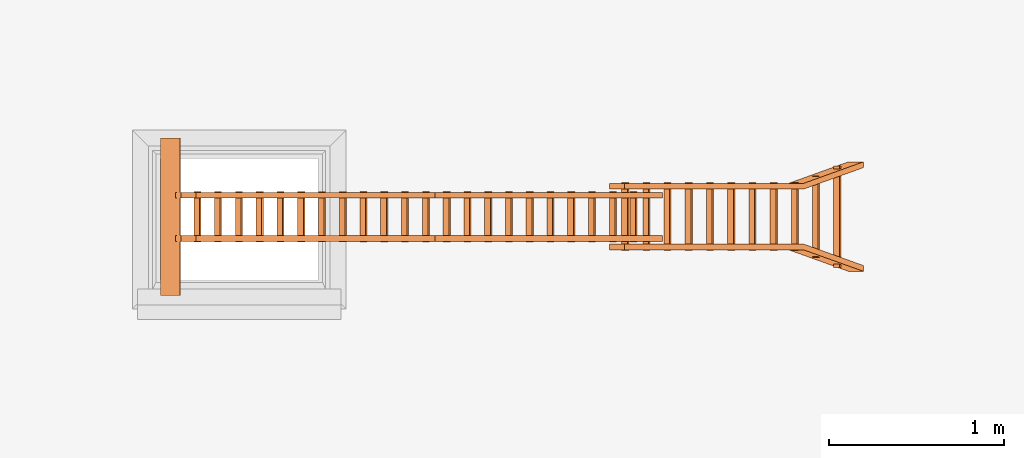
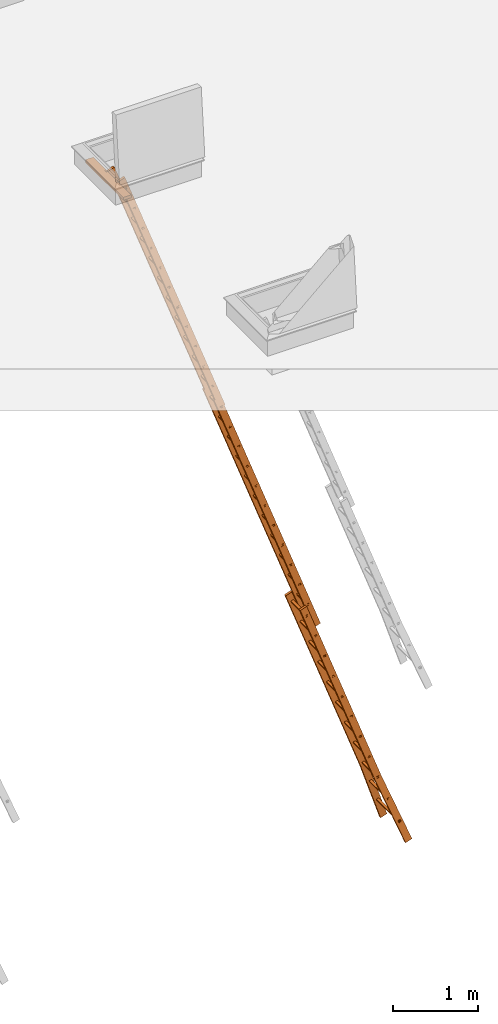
# One storey, part 13 of 28: 1 proxy, 2 openings.
"""IFC2X3 building model written with IfcOpenShell, lengths in millimetres."""

from ifc_helpers import new_model, entity, si_unit, converted_unit, derived_unit, direction, frame, frame_2d, origin, origin_2d_with_axis, place, context, subcontext, project, spatial, polyline, circle_curve, parameter, trimmed, segment, composite_curve, rectangle, outline, extrude, source, transform, mapped, type_object, type_shapes, element, save


model = new_model("IFC2X3")

# Units and contexts
model_context = context("Model", 3, precision=0.01, world=origin(), true_north=direction((6.12303176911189e-17, 1.0)))
body_context = subcontext(model_context, "Body", "Model", "MODEL_VIEW")
ifc_project = project(units=[si_unit("LENGTHUNIT", "METRE", prefix="MILLI"), si_unit("AREAUNIT", "SQUARE_METRE"), si_unit("VOLUMEUNIT", "CUBIC_METRE"), converted_unit("PLANEANGLEUNIT", "DEGREE", entity("IfcRatioMeasure", 0.0174532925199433), si_unit("PLANEANGLEUNIT", "RADIAN"), dimensions=[0, 0, 0, 0, 0, 0, 0]), si_unit("MASSUNIT", "GRAM", prefix="KILO"), derived_unit("MASSDENSITYUNIT", [(si_unit("MASSUNIT", "GRAM", prefix="KILO"), 1), (si_unit("LENGTHUNIT", "METRE"), -3)]), si_unit("TIMEUNIT", "SECOND"), si_unit("FREQUENCYUNIT", "HERTZ"), si_unit("THERMODYNAMICTEMPERATUREUNIT", "DEGREE_CELSIUS"), derived_unit("THERMALTRANSMITTANCEUNIT", [(si_unit("MASSUNIT", "GRAM", prefix="KILO"), 1), (si_unit("THERMODYNAMICTEMPERATUREUNIT", "KELVIN"), -1), (si_unit("TIMEUNIT", "SECOND"), -3)]), derived_unit("VOLUMETRICFLOWRATEUNIT", [(si_unit("LENGTHUNIT", "METRE"), 3), (si_unit("TIMEUNIT", "SECOND"), -1)]), si_unit("ELECTRICCURRENTUNIT", "AMPERE"), si_unit("ELECTRICVOLTAGEUNIT", "VOLT"), si_unit("POWERUNIT", "WATT"), si_unit("FORCEUNIT", "NEWTON", prefix="KILO"), si_unit("ILLUMINANCEUNIT", "LUX"), si_unit("LUMINOUSFLUXUNIT", "LUMEN"), si_unit("LUMINOUSINTENSITYUNIT", "CANDELA"), derived_unit("USERDEFINED", [(si_unit("MASSUNIT", "GRAM", prefix="KILO"), -1), (si_unit("LENGTHUNIT", "METRE"), -2), (si_unit("TIMEUNIT", "SECOND"), 3), (si_unit("LUMINOUSFLUXUNIT", "LUMEN"), 1)]), derived_unit("LINEARVELOCITYUNIT", [(si_unit("LENGTHUNIT", "METRE"), 1), (si_unit("TIMEUNIT", "SECOND"), -1)]), si_unit("PRESSUREUNIT", "PASCAL"), derived_unit("USERDEFINED", [(si_unit("LENGTHUNIT", "METRE"), -2), (si_unit("MASSUNIT", "GRAM", prefix="KILO"), 1), (si_unit("TIMEUNIT", "SECOND"), -2)])], contexts=[model_context])

# Site, building, storey
site_placement = place(None, origin())
site = spatial("IfcSite", under=ifc_project, at=site_placement, Name="Default", CompositionType="ELEMENT")
building_placement = place(site_placement, origin())
building = spatial("IfcBuilding", under=site, at=building_placement, CompositionType="ELEMENT")
storey_placement = place(building_placement, frame((0.0, 0.0, 4000.0)))
storey = spatial("IfcBuildingStorey", under=building, at=storey_placement, Name="Level 2", CompositionType="ELEMENT", Elevation=4000.0)

# Proxy, openings
building_element_proxy_type = type_object("IfcBuildingElementProxyType", Name="9_Topaccess_Trap_3delige1", PredefinedType="NOTDEFINED")
shared_shape = source(origin(), body_context, "Body", "SweptSolid", [
    extrude(outline(composite_curve([segment(polyline([(-20.0, -72.6666666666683), (20.0, -72.6666666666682)]), True, "CONTINUOUS"), segment(polyline([(20.0, -72.6666666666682), (20.0, 31.8333333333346)]), True, "CONTINUOUS"), segment(trimmed(circle_curve(frame_2d((11.0, 31.8333333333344), x_axis=(0.939692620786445, -0.342020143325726)), 8.99999999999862), [parameter(20.0000000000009)], [parameter(109.999999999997)], True, "PARAMETER"), True, "CONTINUOUS"), segment(polyline([(11.0, 40.8333333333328), (-11.0, 40.833333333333)]), True, "CONTINUOUS"), segment(trimmed(circle_curve(frame_2d((-11.0, 31.8333333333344), x_axis=(0.939692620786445, -0.342020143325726)), 8.99999999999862), [parameter(109.999999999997)], [parameter(199.999999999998)], True, "PARAMETER"), True, "CONTINUOUS"), segment(polyline([(-20.0, 31.8333333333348), (-20.0, -72.6666666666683)]), True, "CONTINUOUS")], self_intersect=False)), frame((-484.291584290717, 5437.00468660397, 85.555153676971), z_axis=(1.0, 0.0, 0.0), x_axis=(0.0, 0.939692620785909, 0.342020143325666)), (0.0, 0.0, 1.0), 900.0),
    extrude(outline(composite_curve([segment(polyline([(34.5620685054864, -17.3803405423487), (-85.4379314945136, -17.3803405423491)]), True, "CONTINUOUS"), segment(polyline([(-85.4379314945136, -17.3803405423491), (-85.4379314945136, -20.3803405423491)]), True, "CONTINUOUS"), segment(polyline([(-85.4379314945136, -20.3803405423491), (34.8237042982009, -20.3803405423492)]), True, "CONTINUOUS"), segment(trimmed(circle_curve(frame_2d((31.2529900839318, 0.719659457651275), x_axis=(1.0, 0.0)), 21.4), [parameter(279.605058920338)], [parameter(66.7401617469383)], True, "PARAMETER"), True, "CONTINUOUS"), segment(polyline([(39.7038846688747, 20.3803405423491), (11.3620685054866, 20.380340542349)]), True, "CONTINUOUS"), segment(polyline([(11.3620685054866, 20.380340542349), (11.3620685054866, 17.380340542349)]), True, "CONTINUOUS"), segment(polyline([(11.3620685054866, 17.380340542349), (39.0620685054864, 17.3803405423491)]), True, "CONTINUOUS"), segment(trimmed(circle_curve(frame_2d((31.2529900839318, 0.719659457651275), x_axis=(1.0, 0.0)), 18.4), [parameter(280.36051137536)], [parameter(64.8869014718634)], True, "PARAMETER"), False, "CONTINUOUS")], self_intersect=False)), frame((72.0, 5400.1320556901, 113.619659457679), z_axis=(-1.0, 0.0, 0.0), x_axis=(0.0, 1.0, 0.0)), (0.0, 0.0, -1.0), 33.0),
    extrude(outline(composite_curve([segment(polyline([(-85.4379314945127, -17.3803405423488), (-85.4379314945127, -20.3803405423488)]), True, "CONTINUOUS"), segment(polyline([(-85.4379314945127, -20.3803405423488), (34.8237042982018, -20.3803405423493)]), True, "CONTINUOUS"), segment(trimmed(circle_curve(frame_2d((31.2529900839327, 0.719659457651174), x_axis=(1.0, 0.0)), 21.4), [parameter(279.605058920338)], [parameter(66.7401617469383)], True, "PARAMETER"), True, "CONTINUOUS"), segment(polyline([(39.7038846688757, 20.380340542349), (11.3620685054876, 20.380340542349)]), True, "CONTINUOUS"), segment(polyline([(11.3620685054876, 20.380340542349), (11.3620685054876, 17.380340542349)]), True, "CONTINUOUS"), segment(polyline([(11.3620685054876, 17.380340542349), (39.0620685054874, 17.380340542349)]), True, "CONTINUOUS"), segment(trimmed(circle_curve(frame_2d((31.2529900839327, 0.719659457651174), x_axis=(1.0, 0.0)), 18.4), [parameter(280.36051137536)], [parameter(64.8869014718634)], True, "PARAMETER"), False, "CONTINUOUS"), segment(polyline([(34.5620685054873, -17.3803405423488), (-85.4379314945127, -17.3803405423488)]), True, "CONTINUOUS")], self_intersect=False)), frame((-175.0, 5400.13205569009, 113.619659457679), z_axis=(-1.0, 0.0, 0.0), x_axis=(0.0, 1.0, 0.0)), (0.0, 0.0, -1.0), 33.0000000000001),
    extrude(outline(polyline([(-11.5216143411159, -16.5), (13.8405381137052, -16.5), (13.8405381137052, 16.4999999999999), (-16.1594618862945, 16.5), (-11.5216143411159, -16.5)]), holes=[polyline([(8.84053811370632, -11.5), (-7.1751806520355, -11.5), (-10.4076198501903, 11.5000000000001), (8.84053811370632, 11.5), (8.84053811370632, -11.5)])]), frame((-178.583168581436, 1440.72573419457, 171.084388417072), z_axis=(1.0, 0.0, 0.0), x_axis=(0.0, -1.0, 0.0)), (0.0, 0.0, 1.0), 288.583168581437),
    extrude(outline(polyline([(-11.5216143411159, -16.5), (13.8405381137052, -16.5), (13.8405381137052, 16.4999999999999), (-16.1594618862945, 16.5), (-11.5216143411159, -16.5)]), holes=[polyline([(8.84053811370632, -11.5), (-7.1751806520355, -11.5), (-10.4076198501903, 11.5000000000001), (8.84053811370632, 11.5), (8.84053811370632, -11.5)])]), frame((-178.583168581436, 1093.22573419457, 171.084388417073), z_axis=(1.0, 0.0, 0.0), x_axis=(0.0, -1.0, 0.0)), (0.0, 0.0, 1.0), 288.583168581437),
    extrude(outline(polyline([(-11.5216143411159, -16.5), (13.8405381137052, -16.5), (13.8405381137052, 16.4999999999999), (-16.1594618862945, 16.5), (-11.5216143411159, -16.5)]), holes=[polyline([(8.84053811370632, -11.5), (-7.1751806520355, -11.5), (-10.4076198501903, 11.5000000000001), (8.84053811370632, 11.5), (8.84053811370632, -11.5)])]), frame((-178.583168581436, 745.725734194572, 171.084388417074), z_axis=(1.0, 0.0, 0.0), x_axis=(0.0, -1.0, 0.0)), (0.0, 0.0, 1.0), 288.583168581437),
    extrude(outline(polyline([(-11.5216143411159, -16.5), (13.8405381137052, -16.5), (13.8405381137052, 16.4999999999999), (-16.1594618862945, 16.5), (-11.5216143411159, -16.5)]), holes=[polyline([(8.84053811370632, -11.5), (-7.1751806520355, -11.5), (-10.4076198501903, 11.5000000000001), (8.84053811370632, 11.5), (8.84053811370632, -11.5)])]), frame((-178.583168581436, 398.225734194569, 171.084388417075), z_axis=(1.0, 0.0, 0.0), x_axis=(0.0, -1.0, 0.0)), (0.0, 0.0, 1.0), 288.583168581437),
    extrude(outline(polyline([(-11.5216143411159, -16.5), (13.8405381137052, -16.5), (13.8405381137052, 16.4999999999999), (-16.1594618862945, 16.5), (-11.5216143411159, -16.5)]), holes=[polyline([(8.84053811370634, -11.5), (-7.17518065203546, -11.5), (-10.4076198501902, 11.5000000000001), (8.84053811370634, 11.5), (8.84053811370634, -11.5)])]), frame((-178.583168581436, 50.7257341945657, 171.084388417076), z_axis=(1.0, 0.0, 0.0), x_axis=(0.0, -1.0, 0.0)), (0.0, 0.0, 1.0), 288.583168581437),
    extrude(outline(polyline([(-11.5216143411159, -16.5), (13.8405381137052, -16.5), (13.8405381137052, 16.4999999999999), (-16.1594618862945, 16.5), (-11.5216143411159, -16.5)]), holes=[polyline([(8.84053811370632, -11.5), (-7.17518065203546, -11.5), (-10.4076198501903, 11.5000000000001), (8.84053811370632, 11.5), (8.84053811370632, -11.5)])]), frame((-178.583168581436, -296.774265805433, 171.084388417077), z_axis=(1.0, 0.0, 0.0), x_axis=(0.0, -1.0, 0.0)), (0.0, 0.0, 1.0), 288.583168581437),
    extrude(outline(polyline([(-11.5216143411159, -16.5), (13.8405381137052, -16.5), (13.8405381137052, 16.4999999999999), (-16.1594618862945, 16.5), (-11.5216143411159, -16.5)]), holes=[polyline([(8.84053811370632, -11.5), (-7.1751806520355, -11.5), (-10.4076198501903, 11.5000000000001), (8.84053811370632, 11.5), (8.84053811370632, -11.5)])]), frame((-178.583168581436, -644.274265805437, 171.084388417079), z_axis=(1.0, 0.0, 0.0), x_axis=(0.0, -1.0, 0.0)), (0.0, 0.0, 1.0), 288.583168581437),
    extrude(outline(polyline([(-11.5216143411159, -16.5), (13.8405381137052, -16.5), (13.8405381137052, 16.4999999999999), (-16.1594618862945, 16.5), (-11.5216143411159, -16.5)]), holes=[polyline([(8.84053811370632, -11.5), (-7.1751806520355, -11.5), (-10.4076198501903, 11.5000000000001), (8.84053811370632, 11.5), (8.84053811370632, -11.5)])]), frame((-178.583168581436, -991.774265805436, 171.08438841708), z_axis=(1.0, 0.0, 0.0), x_axis=(0.0, -1.0, 0.0)), (0.0, 0.0, 1.0), 288.583168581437),
    extrude(outline(polyline([(-11.5216143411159, -16.5), (13.8405381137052, -16.5), (13.8405381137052, 16.4999999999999), (-16.1594618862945, 16.5), (-11.5216143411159, -16.5)]), holes=[polyline([(8.84053811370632, -11.5), (-7.1751806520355, -11.5), (-10.4076198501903, 11.5000000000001), (8.84053811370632, 11.5), (8.84053811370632, -11.5)])]), frame((-178.583168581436, -1339.27426580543, 171.084388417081), z_axis=(1.0, 0.0, 0.0), x_axis=(0.0, -1.0, 0.0)), (0.0, 0.0, 1.0), 288.583168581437),
    extrude(outline(polyline([(-11.5216143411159, -16.4999999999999), (13.8405381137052, -16.4999999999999), (13.8405381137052, 16.4999999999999), (-16.1594618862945, 16.5), (-11.5216143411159, -16.4999999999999)]), holes=[polyline([(8.84053811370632, -11.5), (-7.1751806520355, -11.5), (-10.4076198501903, 11.5000000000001), (8.84053811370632, 11.5), (8.84053811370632, -11.5)])]), frame((-178.583168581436, -1686.77426580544, 171.084388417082), z_axis=(1.0, 0.0, 0.0), x_axis=(0.0, -1.0, 0.0)), (0.0, 0.0, 1.0), 288.583168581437),
    extrude(rectangle(XDim=33.0, YDim=4000.0, at=origin_2d_with_axis()), frame((88.5000000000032, -399.911054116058, 120.0), z_axis=(0.0, 0.0, 1.0), x_axis=(-1.0, 0.0, 0.0)), (0.0, 0.0, 1.0), 92.0),
    extrude(rectangle(XDim=33.0, YDim=4000.0, at=frame_2d((8.88178419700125e-15, 0.0), x_axis=(1.0, 0.0))), frame((-158.499999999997, -399.911054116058, 120.0), z_axis=(0.0, 0.0, 1.0), x_axis=(-1.0, 0.0, 0.0)), (0.0, 0.0, 1.0), 92.0),
    extrude(rectangle(XDim=33.0, YDim=4000.0, at=origin_2d_with_axis()), frame((88.5000000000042, 3440.6557599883, 134.0), z_axis=(0.0, 0.0, 1.0), x_axis=(-1.0, 0.0, 0.0)), (0.0, 0.0, 1.0), 90.0),
    extrude(rectangle(XDim=33.0, YDim=4000.0, at=frame_2d((8.88178419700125e-15, -5.6843418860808e-13), x_axis=(1.0, 0.0))), frame((-158.499999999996, 3440.6557599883, 134.0), z_axis=(0.0, 0.0, 1.0), x_axis=(-1.0, 0.0, 0.0)), (0.0, 0.0, 1.0), 90.0),
    extrude(outline(polyline([(-11.5216143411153, -16.5), (13.8405381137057, -16.5), (13.8405381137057, 16.5), (-16.159461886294, 16.5000000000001), (-11.5216143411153, -16.5)]), holes=[polyline([(8.84053811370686, -11.5), (-7.17518065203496, -11.5), (-10.4076198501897, 11.5), (8.84053811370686, 11.5), (8.84053811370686, -11.5)])]), frame((-178.583168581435, 5281.29254829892, 176.084388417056), z_axis=(1.0, 0.0, 0.0), x_axis=(0.0, -1.0, 0.0)), (0.0, 0.0, 1.0), 288.583168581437),
    extrude(outline(polyline([(-11.5216143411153, -16.5), (13.8405381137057, -16.5), (13.8405381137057, 16.5), (-16.159461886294, 16.5000000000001), (-11.5216143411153, -16.5)]), holes=[polyline([(8.84053811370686, -11.5), (-7.17518065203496, -11.5), (-10.4076198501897, 11.5), (8.84053811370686, 11.5), (8.84053811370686, -11.5)])]), frame((-178.583168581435, 4933.79254829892, 176.084388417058), z_axis=(1.0, 0.0, 0.0), x_axis=(0.0, -1.0, 0.0)), (0.0, 0.0, 1.0), 288.583168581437),
    extrude(outline(polyline([(-11.5216143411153, -16.5), (13.8405381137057, -16.5), (13.8405381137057, 16.5), (-16.159461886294, 16.5000000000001), (-11.5216143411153, -16.5)]), holes=[polyline([(8.84053811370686, -11.5), (-7.17518065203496, -11.5), (-10.4076198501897, 11.5), (8.84053811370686, 11.5), (8.84053811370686, -11.5)])]), frame((-178.583168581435, 4586.29254829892, 176.084388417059), z_axis=(1.0, 0.0, 0.0), x_axis=(0.0, -1.0, 0.0)), (0.0, 0.0, 1.0), 288.583168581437),
    extrude(outline(polyline([(-11.5216143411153, -16.5), (13.8405381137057, -16.5), (13.8405381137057, 16.4999999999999), (-16.159461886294, 16.5), (-11.5216143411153, -16.5)]), holes=[polyline([(8.84053811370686, -11.5), (-7.17518065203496, -11.5), (-10.4076198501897, 11.5), (8.84053811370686, 11.4999999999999), (8.84053811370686, -11.5)])]), frame((-178.583168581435, 4238.79254829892, 176.08438841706), z_axis=(1.0, 0.0, 0.0), x_axis=(0.0, -1.0, 0.0)), (0.0, 0.0, 1.0), 288.583168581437),
    extrude(outline(polyline([(-11.5216143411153, -16.5), (13.8405381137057, -16.5), (13.8405381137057, 16.5), (-16.159461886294, 16.5000000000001), (-11.5216143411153, -16.5)]), holes=[polyline([(8.84053811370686, -11.5), (-7.17518065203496, -11.5), (-10.4076198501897, 11.5), (8.84053811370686, 11.5), (8.84053811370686, -11.5)])]), frame((-178.583168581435, 3891.29254829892, 176.084388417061), z_axis=(1.0, 0.0, 0.0), x_axis=(0.0, -1.0, 0.0)), (0.0, 0.0, 1.0), 288.583168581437),
    extrude(outline(polyline([(-11.5216143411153, -16.5), (13.8405381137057, -16.5), (13.8405381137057, 16.5), (-16.159461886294, 16.5000000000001), (-11.5216143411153, -16.5)]), holes=[polyline([(8.84053811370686, -11.5), (-7.17518065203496, -11.5), (-10.4076198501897, 11.5), (8.84053811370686, 11.5), (8.84053811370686, -11.5)])]), frame((-178.583168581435, 3543.79254829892, 176.084388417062), z_axis=(1.0, 0.0, 0.0), x_axis=(0.0, -1.0, 0.0)), (0.0, 0.0, 1.0), 288.583168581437),
    extrude(outline(polyline([(-11.5216143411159, -16.5), (13.8405381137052, -16.5), (13.8405381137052, 16.4999999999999), (-16.1594618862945, 16.5), (-11.5216143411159, -16.5)]), holes=[polyline([(8.84053811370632, -11.5), (-7.1751806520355, -11.5), (-10.4076198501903, 11.5), (8.84053811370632, 11.5), (8.84053811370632, -11.5)])]), frame((-178.583168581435, 3196.29254829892, 176.084388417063), z_axis=(1.0, 0.0, 0.0), x_axis=(0.0, -1.0, 0.0)), (0.0, 0.0, 1.0), 288.583168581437),
    extrude(outline(polyline([(-11.5216143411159, -16.5), (13.8405381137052, -16.5), (13.8405381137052, 16.4999999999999), (-16.1594618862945, 16.5), (-11.5216143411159, -16.5)]), holes=[polyline([(8.84053811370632, -11.5), (-7.1751806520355, -11.5), (-10.4076198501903, 11.5), (8.84053811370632, 11.5), (8.84053811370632, -11.5)])]), frame((-178.583168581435, 2848.79254829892, 176.084388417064), z_axis=(1.0, 0.0, 0.0), x_axis=(0.0, -1.0, 0.0)), (0.0, 0.0, 1.0), 288.583168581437),
    extrude(outline(polyline([(-11.5216143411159, -16.5), (13.8405381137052, -16.5), (13.8405381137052, 16.5), (-16.1594618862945, 16.5000000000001), (-11.5216143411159, -16.5)]), holes=[polyline([(8.84053811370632, -11.5), (-7.1751806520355, -11.5), (-10.4076198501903, 11.5000000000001), (8.84053811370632, 11.5), (8.84053811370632, -11.5)])]), frame((-178.583168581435, 2501.29254829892, 176.084388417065), z_axis=(1.0, 0.0, 0.0), x_axis=(0.0, -1.0, 0.0)), (0.0, 0.0, 1.0), 288.583168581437),
    extrude(outline(polyline([(-11.5216143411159, -16.5), (13.8405381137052, -16.5), (13.8405381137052, 16.5), (-16.1594618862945, 16.5000000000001), (-11.5216143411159, -16.5)]), holes=[polyline([(8.84053811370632, -11.5), (-7.1751806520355, -11.5), (-10.4076198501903, 11.5), (8.84053811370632, 11.5), (8.84053811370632, -11.5)])]), frame((-178.583168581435, 2153.79254829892, 176.084388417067), z_axis=(1.0, 0.0, 0.0), x_axis=(0.0, -1.0, 0.0)), (0.0, 0.0, 1.0), 288.583168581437),
    extrude(outline(polyline([(-11.5216143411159, -16.5), (13.8405381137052, -16.5), (13.8405381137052, 16.4999999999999), (-16.1594618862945, 16.5), (-11.5216143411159, -16.5)]), holes=[polyline([(8.84053811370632, -11.5), (-7.1751806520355, -11.5), (-10.4076198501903, 11.5), (8.84053811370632, 11.5), (8.84053811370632, -11.5)])]), frame((-178.583168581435, 1806.29254829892, 176.084388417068), z_axis=(1.0, 0.0, 0.0), x_axis=(0.0, -1.0, 0.0)), (0.0, 0.0, 1.0), 288.583168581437),
    extrude(outline(polyline([(-11.5216143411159, -16.5), (13.8405381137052, -16.5), (13.8405381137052, 16.4999999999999), (-16.1594618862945, 16.5), (-11.5216143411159, -16.5)]), holes=[polyline([(8.84053811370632, -11.5), (-7.1751806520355, -11.5), (-10.4076198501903, 11.5), (8.84053811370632, 11.5), (8.84053811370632, -11.5)])]), frame((-227.077291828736, -2129.53575748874, 85.0843884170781), z_axis=(1.0, 0.0, 0.0), x_axis=(0.0, -1.0, 0.0)), (0.0, 0.0, 1.0), 389.077291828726),
    extrude(outline(polyline([(-11.5216143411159, -16.5), (13.8405381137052, -16.5), (13.8405381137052, 16.5), (-16.1594618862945, 16.5), (-11.5216143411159, -16.5)]), holes=[polyline([(8.84053811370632, -11.5), (-7.1751806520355, -11.5), (-10.4076198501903, 11.5), (8.84053811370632, 11.5), (8.84053811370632, -11.5)])]), frame((-227.077291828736, -2484.53575748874, 85.0843884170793), z_axis=(1.0, 0.0, 0.0), x_axis=(0.0, -1.0, 0.0)), (0.0, 0.0, 1.0), 389.077291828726),
    extrude(outline(polyline([(-11.5216143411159, -16.5), (13.8405381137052, -16.5), (13.8405381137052, 16.4999999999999), (-16.1594618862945, 16.5), (-11.5216143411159, -16.5)]), holes=[polyline([(8.84053811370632, -11.5), (-7.1751806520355, -11.5), (-10.4076198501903, 11.5), (8.84053811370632, 11.5), (8.84053811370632, -11.5)])]), frame((-227.077291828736, -2839.53575748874, 85.0843884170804), z_axis=(1.0, 0.0, 0.0), x_axis=(0.0, -1.0, 0.0)), (0.0, 0.0, 1.0), 389.077291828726),
    extrude(outline(polyline([(-11.5216143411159, -16.5), (13.8405381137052, -16.5), (13.8405381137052, 16.4999999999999), (-16.1594618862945, 16.5), (-11.5216143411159, -16.5)]), holes=[polyline([(8.84053811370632, -11.5), (-7.1751806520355, -11.5), (-10.4076198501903, 11.5000000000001), (8.84053811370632, 11.5), (8.84053811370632, -11.5)])]), frame((-178.583168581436, -2034.27426580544, 171.084388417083), z_axis=(1.0, 0.0, 0.0), x_axis=(0.0, -1.0, 0.0)), (0.0, 0.0, 1.0), 288.583168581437),
    extrude(outline(polyline([(-11.5216143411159, -16.5), (13.8405381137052, -16.5), (13.8405381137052, 16.4999999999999), (-16.1594618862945, 16.5), (-11.5216143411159, -16.5)]), holes=[polyline([(8.84053811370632, -11.5), (-7.1751806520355, -11.5), (-10.4076198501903, 11.5), (8.84053811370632, 11.5), (8.84053811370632, -11.5)])]), frame((-227.077291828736, -3194.53575748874, 85.0843884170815), z_axis=(1.0, 0.0, 0.0), x_axis=(0.0, -1.0, 0.0)), (0.0, 0.0, 1.0), 389.077291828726),
    extrude(outline(polyline([(-11.5216143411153, -16.5), (13.8405381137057, -16.5), (13.8405381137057, 16.4999999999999), (-16.159461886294, 16.5), (-11.5216143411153, -16.5)]), holes=[polyline([(8.84053811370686, -11.5), (-7.17518065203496, -11.5), (-10.4076198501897, 11.5), (8.84053811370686, 11.5), (8.84053811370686, -11.5)])]), frame((-227.077291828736, -3549.53575748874, 85.0843884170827), z_axis=(1.0, 0.0, 0.0), x_axis=(0.0, -1.0, 0.0)), (0.0, 0.0, 1.0), 389.077291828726),
    extrude(outline(polyline([(-11.5216143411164, -16.5), (13.8405381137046, -16.5), (13.8405381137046, 16.5), (-16.159461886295, 16.5), (-11.5216143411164, -16.5)]), holes=[polyline([(8.84053811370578, -11.5), (-7.17518065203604, -11.5), (-10.4076198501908, 11.5), (8.84053811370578, 11.5), (8.84053811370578, -11.5)])]), frame((-227.077291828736, -3904.53575748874, 85.0843884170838), z_axis=(1.0, 0.0, 0.0), x_axis=(0.0, -1.0, 0.0)), (0.0, 0.0, 1.0), 389.077291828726),
    extrude(outline(polyline([(-11.5216143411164, -16.5), (13.8405381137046, -16.5), (13.8405381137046, 16.5), (-16.159461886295, 16.5000000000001), (-11.5216143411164, -16.5)]), holes=[polyline([(8.84053811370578, -11.5), (-7.17518065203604, -11.5), (-10.4076198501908, 11.5000000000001), (8.84053811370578, 11.5), (8.84053811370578, -11.5)])]), frame((-227.077291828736, -4259.53575748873, 85.084388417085), z_axis=(1.0, 0.0, 0.0), x_axis=(0.0, -1.0, 0.0)), (0.0, 0.0, 1.0), 389.077291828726),
    extrude(outline(polyline([(-11.5216143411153, -16.5), (13.8405381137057, -16.5), (13.8405381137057, 16.5), (-16.159461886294, 16.5000000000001), (-11.5216143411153, -16.5)]), holes=[polyline([(8.84053811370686, -11.5), (-7.17518065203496, -11.5), (-10.4076198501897, 11.5000000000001), (8.84053811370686, 11.5), (8.84053811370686, -11.5)])]), frame((-227.077291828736, -4614.53575748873, 85.0843884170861), z_axis=(1.0, 0.0, 0.0), x_axis=(0.0, -1.0, 0.0)), (0.0, 0.0, 1.0), 389.077291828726),
    extrude(outline(polyline([(-11.5216143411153, -16.5), (13.8405381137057, -16.5), (13.8405381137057, 16.5), (-16.159461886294, 16.5000000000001), (-11.5216143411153, -16.5)]), holes=[polyline([(8.84053811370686, -11.5), (-7.17518065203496, -11.5), (-10.4076198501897, 11.5000000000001), (8.84053811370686, 11.5), (8.84053811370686, -11.5)])]), frame((-227.077291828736, -4969.53575748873, 85.0843884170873), z_axis=(1.0, 0.0, 0.0), x_axis=(0.0, -1.0, 0.0)), (0.0, 0.0, 1.0), 389.077291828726),
    extrude(outline(polyline([(-11.5216143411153, -16.5), (13.8405381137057, -16.5), (13.8405381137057, 16.5), (-16.159461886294, 16.5000000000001), (-11.5216143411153, -16.5)]), holes=[polyline([(8.84053811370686, -11.5), (-7.17518065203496, -11.5), (-10.4076198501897, 11.5), (8.84053811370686, 11.5), (8.84053811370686, -11.5)])]), frame((-266.000121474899, -5324.53575748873, 85.0843884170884), z_axis=(1.0, 0.0, 0.0), x_axis=(0.0, -1.0, 0.0)), (0.0, 0.0, 1.0), 465.000121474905),
    extrude(outline(polyline([(-11.5216143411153, -16.5), (13.8405381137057, -16.5), (13.8405381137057, 16.5), (-16.159461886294, 16.5000000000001), (-11.5216143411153, -16.5)]), holes=[polyline([(8.84053811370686, -11.5), (-7.17518065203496, -11.5), (-10.4076198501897, 11.5000000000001), (8.84053811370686, 11.5), (8.84053811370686, -11.5)])]), frame((-323.951711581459, -5679.53575748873, 85.0843884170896), z_axis=(1.0, 0.0, 0.0), x_axis=(0.0, -1.0, 0.0)), (0.0, 0.0, 1.0), 580.345535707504),
    extrude(outline(polyline([(652.705853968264, -138.16622783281), (1663.21970450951, -138.16622783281), (1667.27159501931, -105.166227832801), (656.727542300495, -105.412204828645), (-2317.9515037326, 259.832455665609), (-2321.97319206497, 227.078432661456), (652.705853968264, -138.16622783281)])), frame((181.59152386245, -4331.59474961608, 35.4999999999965), z_axis=(0.0, 0.0, 1.0), x_axis=(0.121869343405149, -0.992546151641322, 0.0)), (0.0, 0.0, 1.0), 92.0),
    extrude(outline(polyline([(655.058107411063, 105.207223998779), (1667.6054819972, 105.207223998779), (1663.55359148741, 138.207223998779), (653.039740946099, 138.207223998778), (-2321.63930508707, -227.037436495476), (-2317.6176167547, -259.791459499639), (655.058107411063, 105.207223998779)])), frame((-247.591523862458, -4331.25835520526, 35.4999999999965), z_axis=(0.0, 0.0, 1.0), x_axis=(-0.121869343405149, -0.992546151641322, 0.0)), (0.0, 0.0, 1.0), 92.0),
])
type_shapes(building_element_proxy_type, [shared_shape])
proxy_placement = place(storey_placement, frame((14768.4558574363, 9423.78291614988, -4725.954279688), z_axis=(0.939692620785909, 0.0, 0.342020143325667), x_axis=(0.0, 1.0, 0.0)))
proxy = element("IfcBuildingElementProxy", 1, at=proxy_placement, inside=storey, type_object=building_element_proxy_type, Name="9_Topaccess_Trap_3delige1:9_Topaccess_Trap_3delige1", ObjectType="9_Topaccess_Trap_3delige1", context=body_context, shape_type="MappedRepresentation", body=[
    mapped(shared_shape, transform((0.0, 0.0, 0.0), scale=1.0)),
])
opening_1_placement = place(storey_placement, frame((14768.4558574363, 9423.78291614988, -725.954279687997), z_axis=(0.321393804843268, 0.939692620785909, 0.116977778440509), x_axis=(-0.342020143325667, 0.0, 0.939692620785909)))
element("IfcOpeningElement", 2, at=opening_1_placement, cuts=proxy, Name="9_Topaccess_Trap_3delige1:9_Topaccess_Trap_3delige1:1", ObjectType="Opening", context=body_context, shape_type="SweptSolid", body=[
    extrude(rectangle(XDim=42.5298592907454, YDim=59.0000000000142, at=frame_2d((1.4210854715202e-14, 0.0), x_axis=(1.0, 0.0))), frame((5417.83179579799, -3629.61402459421, -1489.74364376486), z_axis=(0.939692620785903, 0.321393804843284, 0.116977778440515), x_axis=(0.342020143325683, -0.883022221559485, -0.321393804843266)), (0.0, 0.0, 1.0), 40.0),
])
opening_2_placement = place(storey_placement, frame((14768.4558574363, 9423.78291614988, -725.954279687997), z_axis=(0.321393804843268, 0.939692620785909, 0.116977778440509), x_axis=(-0.342020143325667, 0.0, 0.939692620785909)))
element("IfcOpeningElement", 3, at=opening_2_placement, cuts=proxy, Name="9_Topaccess_Trap_3delige1:9_Topaccess_Trap_3delige1:2", ObjectType="Opening", context=body_context, shape_type="SweptSolid", body=[
    extrude(rectangle(XDim=42.5298592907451, YDim=59.0000000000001, at=frame_2d((1.4210854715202e-13, 0.0), x_axis=(1.0, 0.0))), frame((5417.83179579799, -3714.09299999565, -1257.63956643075), z_axis=(0.939692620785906, 0.321393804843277, 0.116977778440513), x_axis=(0.342020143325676, -0.883022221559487, -0.321393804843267)), (0.0, 0.0, 1.0), 40.0000000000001),
])

save(model, "model.ifc")
